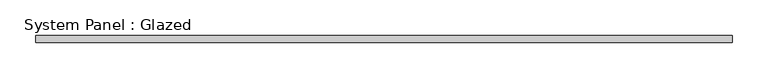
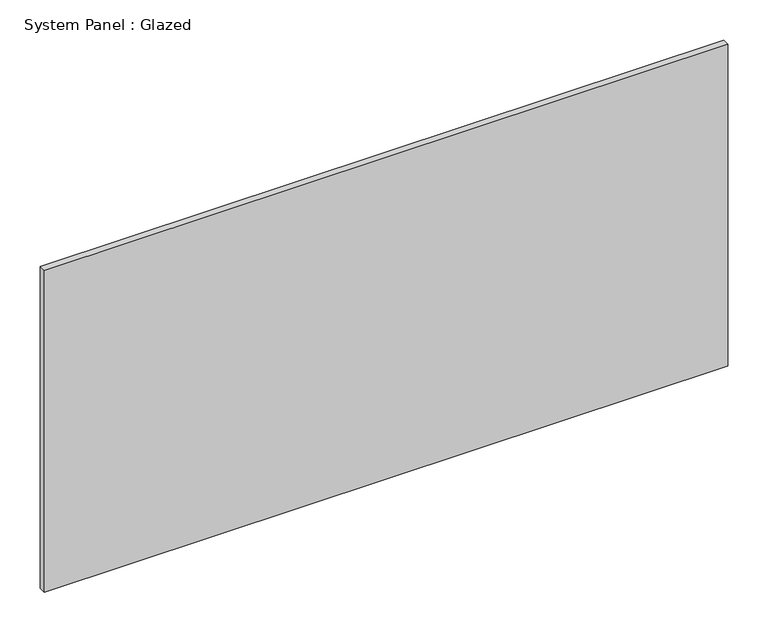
"""IFC4 building model written with IfcOpenShell, lengths in millimetres: plate geometry, System Panel : Glazed."""

from ifc_helpers import new_model, si_unit, origin, origin_with_axes, place, context, project, spatial, polyline, outline, extrude, source, transform, mapped, element, save


def system_panel_glazed_52b7ae70(model_context):
    return source(origin(), model_context, "Body", "SweptSolid", [
        extrude(outline(polyline([(489.8832342, -5.0), (-489.8832342, -5.0), (-489.8832342, 5.0), (489.8832342, 5.0), (489.8832342, -5.0)])), origin_with_axes(), (0.0, 0.0, 1.0), 488.3333333),
    ])


if __name__ == "__main__":
    model = new_model("IFC4")
    model_context = context("Model", 3, world=origin())
    ifc_project = project(units=[si_unit("LENGTHUNIT", "METRE", prefix="MILLI")], contexts=[model_context])
    site = spatial("IfcSite", under=ifc_project)
    building = spatial("IfcBuilding", under=site)
    placement = place(None, origin())
    system_panel_glazed_shape = system_panel_glazed_52b7ae70(model_context)
    element("IfcPlate", 1, ObjectType="System Panel : Glazed", at=placement, inside=building, context=model_context, shape_type="MappedRepresentation", body=[
        mapped(system_panel_glazed_shape, transform((0.0, 0.0, 0.0), x_axis=(1.0, 0.0, 0.0), y_axis=(0.0, 1.0, 0.0), z_axis=(0.0, 0.0, 1.0))),
    ])
    save(model, "model.ifc")
